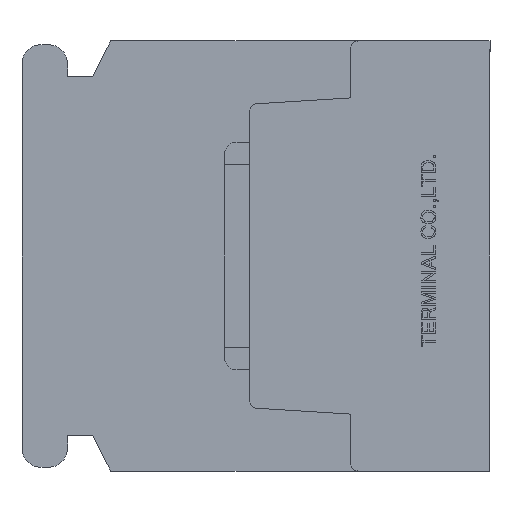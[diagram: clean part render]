
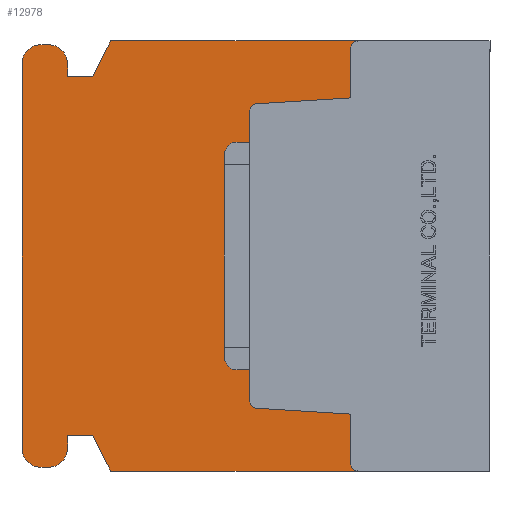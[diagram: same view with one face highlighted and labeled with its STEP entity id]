
A CAD part, left-side view. The second image highlights one B-rep face of the part: STEP entity #12978.
In plain terms, the highlighted planar face has unit normal (-1, 0, 0).
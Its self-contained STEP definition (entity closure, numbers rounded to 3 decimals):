
#789=CIRCLE('',#13678,0.3);
#791=CIRCLE('',#13682,0.3);
#793=CIRCLE('',#13687,0.3);
#795=CIRCLE('',#13690,0.3);
#804=CIRCLE('',#13847,0.75);
#805=CIRCLE('',#13848,0.75);
#806=CIRCLE('',#13849,0.75);
#807=CIRCLE('',#13850,0.75);
#1365=VERTEX_POINT('',#18685);
#1366=VERTEX_POINT('',#18687);
#1381=VERTEX_POINT('',#18721);
#1382=VERTEX_POINT('',#18723);
#1699=VERTEX_POINT('',#19821);
#1700=VERTEX_POINT('',#19822);
#1703=VERTEX_POINT('',#19830);
#1717=VERTEX_POINT('',#19860);
#1719=VERTEX_POINT('',#19866);
#1721=VERTEX_POINT('',#19872);
#1723=VERTEX_POINT('',#19878);
#1725=VERTEX_POINT('',#19887);
#2072=VERTEX_POINT('',#21429);
#2073=VERTEX_POINT('',#21431);
#2074=VERTEX_POINT('',#21433);
#2075=VERTEX_POINT('',#21435);
#2076=VERTEX_POINT('',#21437);
#2077=VERTEX_POINT('',#21439);
#2078=VERTEX_POINT('',#21441);
#2079=VERTEX_POINT('',#21443);
#2080=VERTEX_POINT('',#21445);
#2081=VERTEX_POINT('',#21447);
#2082=VERTEX_POINT('',#21449);
#2083=VERTEX_POINT('',#21451);
#2709=VECTOR('',#14912,1.);
#2726=VECTOR('',#14933,1.);
#3034=VECTOR('',#15808,1.);
#3051=VECTOR('',#15832,1.);
#3055=VECTOR('',#15843,1.);
#3058=VECTOR('',#15847,1.);
#3062=VECTOR('',#15864,1.);
#3475=VECTOR('',#16442,1.);
#3476=VECTOR('',#16443,1.);
#3477=VECTOR('',#16444,1.);
#3478=VECTOR('',#16447,1.);
#3479=VECTOR('',#16450,1.);
#3480=VECTOR('',#16453,1.);
#3481=VECTOR('',#16456,1.);
#3482=VECTOR('',#16457,1.);
#3483=VECTOR('',#16458,1.);
#4111=LINE('',#18686,#2709);
#4128=LINE('',#18722,#2726);
#4436=LINE('',#19820,#3034);
#4453=LINE('',#19859,#3051);
#4457=LINE('',#19871,#3055);
#4460=LINE('',#19877,#3058);
#4464=LINE('',#19892,#3062);
#4877=LINE('',#21428,#3475);
#4878=LINE('',#21430,#3476);
#4879=LINE('',#21432,#3477);
#4880=LINE('',#21436,#3478);
#4881=LINE('',#21440,#3479);
#4882=LINE('',#21444,#3480);
#4883=LINE('',#21448,#3481);
#4884=LINE('',#21450,#3482);
#4885=LINE('',#21452,#3483);
#5704=EDGE_CURVE('',#1365,#1366,#4111,.T.);
#5722=EDGE_CURVE('',#1381,#1382,#4128,.T.);
#6211=EDGE_CURVE('',#1699,#1700,#4436,.T.);
#6215=EDGE_CURVE('',#1703,#1699,#789,.T.);
#6230=EDGE_CURVE('',#1717,#1703,#4453,.T.);
#6233=EDGE_CURVE('',#1719,#1717,#791,.T.);
#6236=EDGE_CURVE('',#1721,#1719,#4457,.T.);
#6239=EDGE_CURVE('',#1723,#1721,#4460,.T.);
#6242=EDGE_CURVE('',#1366,#1723,#793,.T.);
#6244=EDGE_CURVE('',#1725,#1381,#795,.T.);
#6247=EDGE_CURVE('',#1700,#1725,#4464,.T.);
#6771=EDGE_CURVE('',#2072,#1365,#4877,.T.);
#6772=EDGE_CURVE('',#2073,#2072,#4878,.T.);
#6773=EDGE_CURVE('',#2074,#2073,#4879,.T.);
#6774=EDGE_CURVE('',#2075,#2074,#804,.T.);
#6775=EDGE_CURVE('',#2076,#2075,#4880,.T.);
#6776=EDGE_CURVE('',#2077,#2076,#805,.T.);
#6777=EDGE_CURVE('',#2078,#2077,#4881,.T.);
#6778=EDGE_CURVE('',#2079,#2078,#806,.T.);
#6779=EDGE_CURVE('',#2080,#2079,#4882,.T.);
#6780=EDGE_CURVE('',#2081,#2080,#807,.T.);
#6781=EDGE_CURVE('',#2082,#2081,#4883,.T.);
#6782=EDGE_CURVE('',#2083,#2082,#4884,.T.);
#6783=EDGE_CURVE('',#1382,#2083,#4885,.T.);
#10502=ORIENTED_EDGE('',*,*,#6242,.F.);
#10503=ORIENTED_EDGE('',*,*,#5704,.F.);
#10504=ORIENTED_EDGE('',*,*,#6771,.F.);
#10505=ORIENTED_EDGE('',*,*,#6772,.F.);
#10506=ORIENTED_EDGE('',*,*,#6773,.F.);
#10507=ORIENTED_EDGE('',*,*,#6774,.F.);
#10508=ORIENTED_EDGE('',*,*,#6775,.F.);
#10509=ORIENTED_EDGE('',*,*,#6776,.F.);
#10510=ORIENTED_EDGE('',*,*,#6777,.F.);
#10511=ORIENTED_EDGE('',*,*,#6778,.F.);
#10512=ORIENTED_EDGE('',*,*,#6779,.F.);
#10513=ORIENTED_EDGE('',*,*,#6780,.F.);
#10514=ORIENTED_EDGE('',*,*,#6781,.F.);
#10515=ORIENTED_EDGE('',*,*,#6782,.F.);
#10516=ORIENTED_EDGE('',*,*,#6783,.F.);
#10517=ORIENTED_EDGE('',*,*,#5722,.F.);
#10518=ORIENTED_EDGE('',*,*,#6244,.F.);
#10519=ORIENTED_EDGE('',*,*,#6247,.F.);
#10520=ORIENTED_EDGE('',*,*,#6211,.F.);
#10521=ORIENTED_EDGE('',*,*,#6215,.F.);
#10522=ORIENTED_EDGE('',*,*,#6230,.F.);
#10523=ORIENTED_EDGE('',*,*,#6233,.F.);
#10524=ORIENTED_EDGE('',*,*,#6236,.F.);
#10525=ORIENTED_EDGE('',*,*,#6239,.F.);
#11437=EDGE_LOOP('',(#10502,#10503,#10504,#10505,#10506,#10507,#10508,#10509,
#10510,#10511,#10512,#10513,#10514,#10515,#10516,#10517,#10518,#10519,#10520,
#10521,#10522,#10523,#10524,#10525));
#12249=FACE_BOUND('',#11437,.T.);
#12978=ADVANCED_FACE('',(#12249),#22054,.F.);
#13678=AXIS2_PLACEMENT_3D('',#19829,#15814,#15815);
#13682=AXIS2_PLACEMENT_3D('',#19865,#15837,#15838);
#13687=AXIS2_PLACEMENT_3D('',#19883,#15852,#15853);
#13690=AXIS2_PLACEMENT_3D('',#19886,#15858,#15859);
#13846=AXIS2_PLACEMENT_3D('',#21427,#16441,$);
#13847=AXIS2_PLACEMENT_3D('',#21434,#16445,#16446);
#13848=AXIS2_PLACEMENT_3D('',#21438,#16448,#16449);
#13849=AXIS2_PLACEMENT_3D('',#21442,#16451,#16452);
#13850=AXIS2_PLACEMENT_3D('',#21446,#16454,#16455);
#14912=DIRECTION('',(0.,-1.,0.));
#14933=DIRECTION('',(0.,1.,0.));
#15808=DIRECTION('',(0.,-0.998,-0.062));
#15814=DIRECTION('',(-1.,0.,0.));
#15815=DIRECTION('',(0.,0.,-0.3));
#15832=DIRECTION('',(0.,0.,-1.));
#15837=DIRECTION('',(-1.,0.,0.));
#15838=DIRECTION('',(0.,0.,-0.3));
#15843=DIRECTION('',(0.,0.998,-0.062));
#15847=DIRECTION('',(0.,0.,-1.));
#15852=DIRECTION('',(-1.,0.,0.));
#15853=DIRECTION('',(0.,0.,-0.3));
#15858=DIRECTION('',(-1.,0.,0.));
#15859=DIRECTION('',(0.,0.,-0.3));
#15864=DIRECTION('',(0.,0.,-1.));
#16441=DIRECTION('',(1.,0.,0.));
#16442=DIRECTION('',(0.,-0.447,0.894));
#16443=DIRECTION('',(0.,-1.,0.));
#16444=DIRECTION('',(0.,0.,-1.));
#16445=DIRECTION('',(1.,0.,0.));
#16446=DIRECTION('',(0.,0.,-0.75));
#16447=DIRECTION('',(0.,-1.,0.));
#16448=DIRECTION('',(1.,0.,0.));
#16449=DIRECTION('',(0.,0.,-0.75));
#16450=DIRECTION('',(0.,0.,1.));
#16451=DIRECTION('',(1.,0.,0.));
#16452=DIRECTION('',(0.,0.,-0.75));
#16453=DIRECTION('',(0.,1.,0.));
#16454=DIRECTION('',(1.,0.,0.));
#16455=DIRECTION('',(0.,0.,-0.75));
#16456=DIRECTION('',(0.,0.,-1.));
#16457=DIRECTION('',(0.,1.,0.));
#16458=DIRECTION('',(0.,0.447,0.894));
#18685=CARTESIAN_POINT('',(0.,15.,8.5));
#18686=CARTESIAN_POINT('',(0.,15.,8.5));
#18687=CARTESIAN_POINT('',(0.,5.2,8.5));
#18721=CARTESIAN_POINT('',(0.,5.2,-8.5));
#18722=CARTESIAN_POINT('',(0.,0.,-8.5));
#18723=CARTESIAN_POINT('',(0.,15.,-8.5));
#19820=CARTESIAN_POINT('',(0.,9.219,-6.018));
#19821=CARTESIAN_POINT('',(0.,9.219,-6.018));
#19822=CARTESIAN_POINT('',(0.,5.5,-6.25));
#19829=CARTESIAN_POINT('',(0.,9.2,-5.718));
#19830=CARTESIAN_POINT('',(0.,9.5,-5.718));
#19859=CARTESIAN_POINT('',(0.,9.5,5.718));
#19860=CARTESIAN_POINT('',(0.,9.5,5.718));
#19865=CARTESIAN_POINT('',(0.,9.2,5.718));
#19866=CARTESIAN_POINT('',(0.,9.219,6.018));
#19871=CARTESIAN_POINT('',(0.,5.5,6.25));
#19872=CARTESIAN_POINT('',(0.,5.5,6.25));
#19877=CARTESIAN_POINT('',(0.,5.5,8.2));
#19878=CARTESIAN_POINT('',(0.,5.5,8.2));
#19883=CARTESIAN_POINT('',(0.,5.2,8.2));
#19886=CARTESIAN_POINT('',(0.,5.2,-8.2));
#19887=CARTESIAN_POINT('',(0.,5.5,-8.2));
#19892=CARTESIAN_POINT('',(0.,5.5,-6.25));
#21427=CARTESIAN_POINT('',(0.,9.463,0.));
#21428=CARTESIAN_POINT('',(0.,15.7,7.1));
#21429=CARTESIAN_POINT('',(0.,15.7,7.1));
#21430=CARTESIAN_POINT('',(0.,16.7,7.1));
#21431=CARTESIAN_POINT('',(0.,16.7,7.1));
#21432=CARTESIAN_POINT('',(0.,16.7,7.6));
#21433=CARTESIAN_POINT('',(0.,16.7,7.6));
#21434=CARTESIAN_POINT('',(0.,17.45,7.6));
#21435=CARTESIAN_POINT('',(0.,17.45,8.35));
#21436=CARTESIAN_POINT('',(0.,17.75,8.35));
#21437=CARTESIAN_POINT('',(0.,17.75,8.35));
#21438=CARTESIAN_POINT('',(0.,17.75,7.6));
#21439=CARTESIAN_POINT('',(0.,18.5,7.6));
#21440=CARTESIAN_POINT('',(0.,18.5,-7.6));
#21441=CARTESIAN_POINT('',(0.,18.5,-7.6));
#21442=CARTESIAN_POINT('',(0.,17.75,-7.6));
#21443=CARTESIAN_POINT('',(0.,17.75,-8.35));
#21444=CARTESIAN_POINT('',(0.,17.45,-8.35));
#21445=CARTESIAN_POINT('',(0.,17.45,-8.35));
#21446=CARTESIAN_POINT('',(0.,17.45,-7.6));
#21447=CARTESIAN_POINT('',(0.,16.7,-7.6));
#21448=CARTESIAN_POINT('',(0.,16.7,-7.1));
#21449=CARTESIAN_POINT('',(0.,16.7,-7.1));
#21450=CARTESIAN_POINT('',(0.,15.7,-7.1));
#21451=CARTESIAN_POINT('',(0.,15.7,-7.1));
#21452=CARTESIAN_POINT('',(0.,15.,-8.5));
#22054=PLANE('',#13846);
